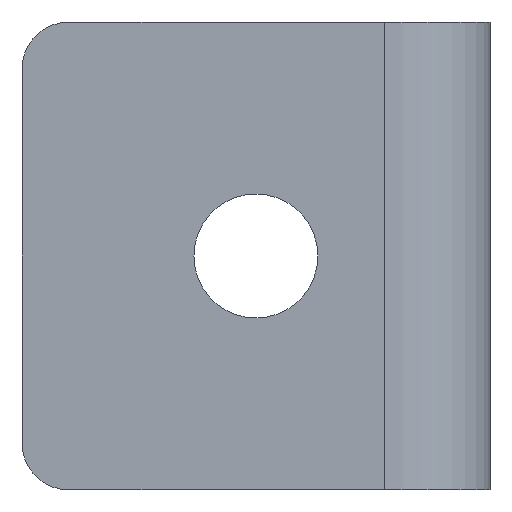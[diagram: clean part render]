
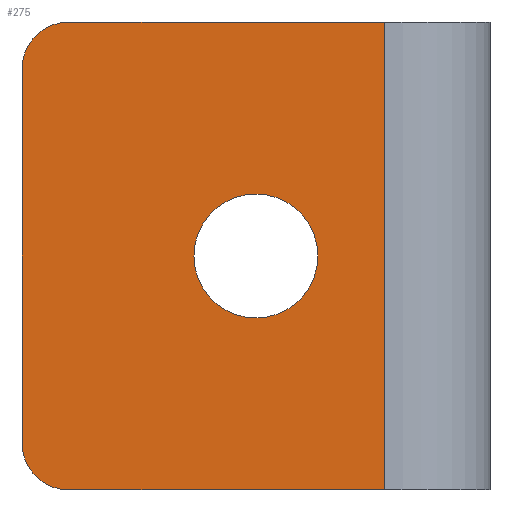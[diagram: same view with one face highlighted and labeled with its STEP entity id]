
A CAD part, left-side view. The second image highlights one B-rep face of the part: STEP entity #275.
In plain terms, the highlighted planar face has unit normal (-1, 0, 0).
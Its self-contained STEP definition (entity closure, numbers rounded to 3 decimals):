
#3 = VECTOR ( 'NONE', #83, 1000. ) ;
#11 = CARTESIAN_POINT ( 'NONE',  ( -2.91, 17.01, -10. ) ) ;
#15 = EDGE_CURVE ( 'NONE', #432, #258, #580, .T. ) ;
#18 = ORIENTED_EDGE ( 'NONE', *, *, #167, .T. ) ;
#21 = CARTESIAN_POINT ( 'NONE',  ( -2.91, 17.01, 10. ) ) ;
#33 = ORIENTED_EDGE ( 'NONE', *, *, #373, .T. ) ;
#39 = CARTESIAN_POINT ( 'NONE',  ( -2.91, 1.5, 10. ) ) ;
#57 = AXIS2_PLACEMENT_3D ( 'NONE', #61, #725, #420 ) ;
#61 = CARTESIAN_POINT ( 'NONE',  ( -2.91, 15.01, -8. ) ) ;
#66 = CARTESIAN_POINT ( 'NONE',  ( -2.91, 17.01, 8. ) ) ;
#69 = VERTEX_POINT ( 'NONE', #350 ) ;
#83 = DIRECTION ( 'NONE',  ( 0., 0., -1. ) ) ;
#95 = DIRECTION ( 'NONE',  ( 1., 0., 0. ) ) ;
#99 = PLANE ( 'NONE',  #363 ) ;
#114 = CARTESIAN_POINT ( 'NONE',  ( -2.91, 1.5, -10. ) ) ;
#128 = EDGE_LOOP ( 'NONE', ( #205, #371, #673, #18, #33, #202 ) ) ;
#160 = CARTESIAN_POINT ( 'NONE',  ( -2.91, 15.01, -10. ) ) ;
#167 = EDGE_CURVE ( 'NONE', #759, #748, #396, .T. ) ;
#202 = ORIENTED_EDGE ( 'NONE', *, *, #773, .T. ) ;
#205 = ORIENTED_EDGE ( 'NONE', *, *, #15, .F. ) ;
#210 = DIRECTION ( 'NONE',  ( 0., 0., 1. ) ) ;
#218 = CARTESIAN_POINT ( 'NONE',  ( -2.91, 17.01, 10. ) ) ;
#219 = EDGE_CURVE ( 'NONE', #69, #731, #463, .T. ) ;
#239 = DIRECTION ( 'NONE',  ( -1., 0., 0. ) ) ;
#250 = ORIENTED_EDGE ( 'NONE', *, *, #219, .T. ) ;
#258 = VERTEX_POINT ( 'NONE', #114 ) ;
#264 = DIRECTION ( 'NONE',  ( 0., 0., -1. ) ) ;
#267 = VERTEX_POINT ( 'NONE', #160 ) ;
#275 = ADVANCED_FACE ( 'NONE', ( #416, #294 ), #99, .F. ) ;
#294 = FACE_BOUND ( 'NONE', #625, .T. ) ;
#299 = CIRCLE ( 'NONE', #689, 2. ) ;
#303 = CARTESIAN_POINT ( 'NONE',  ( -2.91, 15.01, 8. ) ) ;
#304 = CARTESIAN_POINT ( 'NONE',  ( -2.91, 17.01, 10. ) ) ;
#308 = LINE ( 'NONE', #304, #702 ) ;
#335 = EDGE_CURVE ( 'NONE', #444, #759, #299, .T. ) ;
#350 = CARTESIAN_POINT ( 'NONE',  ( -2.91, 9.66, 0. ) ) ;
#363 = AXIS2_PLACEMENT_3D ( 'NONE', #218, #532, #536 ) ;
#371 = ORIENTED_EDGE ( 'NONE', *, *, #576, .F. ) ;
#373 = EDGE_CURVE ( 'NONE', #748, #267, #728, .T. ) ;
#396 = LINE ( 'NONE', #21, #499 ) ;
#413 = EDGE_CURVE ( 'NONE', #731, #69, #573, .T. ) ;
#416 = FACE_OUTER_BOUND ( 'NONE', #128, .T. ) ;
#420 = DIRECTION ( 'NONE',  ( 0., 0., 1. ) ) ;
#432 = VERTEX_POINT ( 'NONE', #703 ) ;
#444 = VERTEX_POINT ( 'NONE', #538 ) ;
#450 = DIRECTION ( 'NONE',  ( 0., 0., 1. ) ) ;
#463 = CIRCLE ( 'NONE', #560, 2.65 ) ;
#499 = VECTOR ( 'NONE', #264, 1000. ) ;
#532 = DIRECTION ( 'NONE',  ( 1., 0., 0. ) ) ;
#536 = DIRECTION ( 'NONE',  ( 0., 0., 1. ) ) ;
#538 = CARTESIAN_POINT ( 'NONE',  ( -2.91, 15.01, 10. ) ) ;
#540 = DIRECTION ( 'NONE',  ( 0., 0., 1. ) ) ;
#541 = DIRECTION ( 'NONE',  ( 0., -1., 0. ) ) ;
#554 = LINE ( 'NONE', #11, #566 ) ;
#558 = AXIS2_PLACEMENT_3D ( 'NONE', #610, #769, #210 ) ;
#560 = AXIS2_PLACEMENT_3D ( 'NONE', #749, #95, #450 ) ;
#566 = VECTOR ( 'NONE', #740, 1000. ) ;
#573 = CIRCLE ( 'NONE', #558, 2.65 ) ;
#576 = EDGE_CURVE ( 'NONE', #444, #432, #308, .T. ) ;
#580 = LINE ( 'NONE', #39, #3 ) ;
#610 = CARTESIAN_POINT ( 'NONE',  ( -2.91, 7.01, 0. ) ) ;
#625 = EDGE_LOOP ( 'NONE', ( #250, #686 ) ) ;
#670 = CARTESIAN_POINT ( 'NONE',  ( -2.91, 4.36, 0. ) ) ;
#673 = ORIENTED_EDGE ( 'NONE', *, *, #335, .T. ) ;
#685 = CARTESIAN_POINT ( 'NONE',  ( -2.91, 17.01, -8. ) ) ;
#686 = ORIENTED_EDGE ( 'NONE', *, *, #413, .T. ) ;
#689 = AXIS2_PLACEMENT_3D ( 'NONE', #303, #239, #540 ) ;
#702 = VECTOR ( 'NONE', #541, 1000. ) ;
#703 = CARTESIAN_POINT ( 'NONE',  ( -2.91, 1.5, 10. ) ) ;
#725 = DIRECTION ( 'NONE',  ( -1., 0., 0. ) ) ;
#728 = CIRCLE ( 'NONE', #57, 2. ) ;
#731 = VERTEX_POINT ( 'NONE', #670 ) ;
#740 = DIRECTION ( 'NONE',  ( 0., -1., 0. ) ) ;
#748 = VERTEX_POINT ( 'NONE', #685 ) ;
#749 = CARTESIAN_POINT ( 'NONE',  ( -2.91, 7.01, 0. ) ) ;
#759 = VERTEX_POINT ( 'NONE', #66 ) ;
#769 = DIRECTION ( 'NONE',  ( 1., 0., 0. ) ) ;
#773 = EDGE_CURVE ( 'NONE', #267, #258, #554, .T. ) ;
